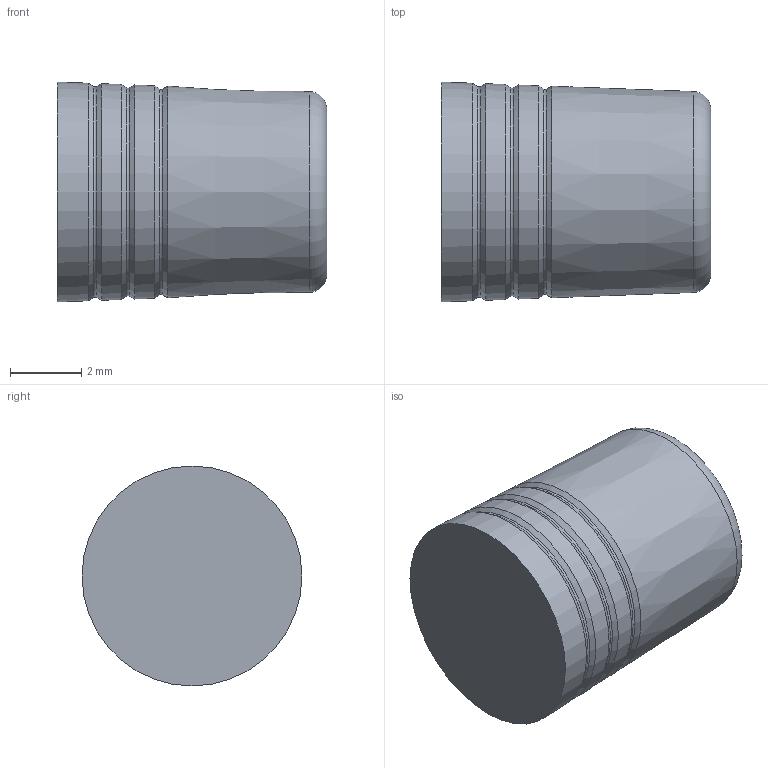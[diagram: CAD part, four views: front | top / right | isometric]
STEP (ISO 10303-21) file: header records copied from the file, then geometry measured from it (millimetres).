
FILE_DESCRIPTION(/* description */ ('LEE BETAPLUG, 6mm, SHORT, INDENT'),/* implementation_level */ '2;1');
FILE_NAME(/* name */ '\\ABSOLUTE\SmWork\Vernon\PLBA0602610S.stp',/* time_stamp */ '2021-03-23T15:10:17-04:00',/* author */ ('VernonJ'),/* organization */ (''),/* preprocessor_version */ 'ST-DEVELOPER v18',/* originating_system */ 'Autodesk Inventor 2020',/* authorisation */ '');
FILE_SCHEMA (('AUTOMOTIVE_DESIGN { 1 0 10303 214 3 1 1 }'));
Length unit declared in the file: millimetre
Products named in the file (1): PLBA0602610S
Bounding box: 7.57 x 6.17 x 6.17 mm (x, y, z)
Volume: 204.1 mm3; surface area: 193.5 mm2
Topology: 1 solids, 1 shells, 16 faces, 51 edges, 37 vertices
Faces by surface type: cone 10, torus 4, plane 2
Entity records: 649 total; most frequent: DIRECTION 126, CARTESIAN_POINT 105, ORIENTED_EDGE 102, AXIS2_PLACEMENT_3D 58, EDGE_CURVE 51, CIRCLE 41, VERTEX_POINT 37, FACE_OUTER_BOUND 16
